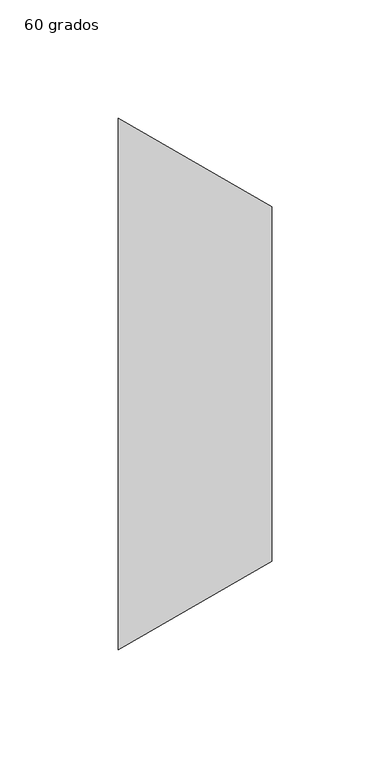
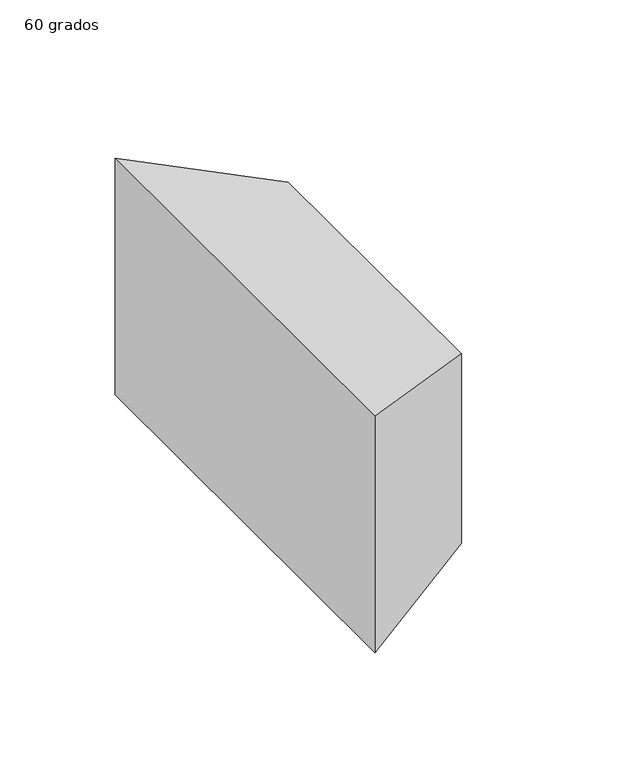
"""IFC4 building model written with IfcOpenShell, lengths in millimetres: duct fitting geometry, M_Transición rectangular - Ángulo : 60 grados."""

from ifc_helpers import new_model, si_unit, origin, place, context, project, spatial, faceted_brep, source, transform, mapped, element, save


def duct_fitting_60_grados_185da9ea(model_context):
    return source(origin(), model_context, "Body", "Brep", [
        faceted_brep([(64.9519053, -75.0, 50.0), (64.9519053, -75.0, -50.0), (64.9519053, 75.0, -50.0), (64.9519053, 75.0, 50.0), (0.0, -112.5, 62.5), (0.0, 112.5, 62.5), (0.0, 112.5, -62.5), (0.0, -112.5, -62.5)], [[[0, 1, 2, 3]], [[4, 5, 6, 7]], [[4, 7, 1, 0]], [[7, 6, 2, 1]], [[6, 5, 3, 2]], [[5, 4, 0, 3]]]),
    ])


if __name__ == "__main__":
    model = new_model("IFC4")
    model_context = context("Model", 3, world=origin())
    ifc_project = project(units=[si_unit("LENGTHUNIT", "METRE", prefix="MILLI")], contexts=[model_context])
    site = spatial("IfcSite", under=ifc_project)
    building = spatial("IfcBuilding", under=site)
    placement = place(None, origin())
    duct_fitting_60_grados_shape = duct_fitting_60_grados_185da9ea(model_context)
    element("IfcDuctFitting", 1, ObjectType="M_Transición rectangular - Ángulo : 60 grados", at=placement, inside=building, context=model_context, shape_type="MappedRepresentation", body=[
        mapped(duct_fitting_60_grados_shape, transform((0.0, 0.0, 0.0), x_axis=(1.0, 0.0, 0.0), y_axis=(0.0, 1.0, 0.0), z_axis=(0.0, 0.0, 1.0))),
    ])
    save(model, "model.ifc")
